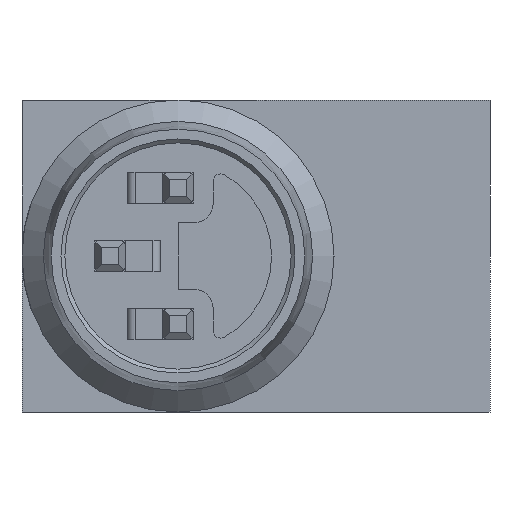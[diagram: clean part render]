
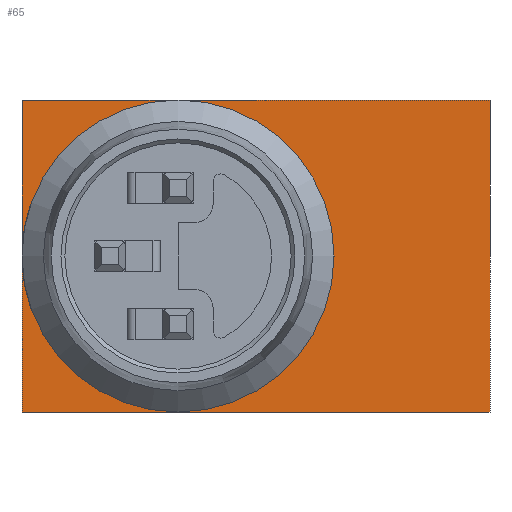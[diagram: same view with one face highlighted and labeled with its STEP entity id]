
A CAD part, left-side view. The second image highlights one B-rep face of the part: STEP entity #65.
In plain terms, the highlighted planar face has unit normal (-1, 0, 0).
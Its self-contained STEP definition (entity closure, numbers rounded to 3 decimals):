
#65 = ADVANCED_FACE( '', ( #145, #146 ), #147, .F. );
#145 = FACE_BOUND( '', #228, .T. );
#146 = FACE_OUTER_BOUND( '', #229, .T. );
#147 = PLANE( '', #230 );
#228 = EDGE_LOOP( '', ( #438 ) );
#229 = EDGE_LOOP( '', ( #439, #440, #441, #442 ) );
#230 = AXIS2_PLACEMENT_3D( '', #443, #444, #445 );
#438 = ORIENTED_EDGE( '', *, *, #751, .T. );
#439 = ORIENTED_EDGE( '', *, *, #703, .T. );
#440 = ORIENTED_EDGE( '', *, *, #752, .F. );
#441 = ORIENTED_EDGE( '', *, *, #691, .F. );
#442 = ORIENTED_EDGE( '', *, *, #753, .T. );
#443 = CARTESIAN_POINT( '', ( -20., 4., 4. ) );
#444 = DIRECTION( '', ( 1., 0., 0. ) );
#445 = DIRECTION( '', ( 0., 0., -1. ) );
#691 = EDGE_CURVE( '', #939, #940, #941, .T. );
#703 = EDGE_CURVE( '', #960, #961, #962, .T. );
#751 = EDGE_CURVE( '', #1044, #1044, #1045, .F. );
#752 = EDGE_CURVE( '', #940, #961, #1046, .T. );
#753 = EDGE_CURVE( '', #939, #960, #1047, .T. );
#939 = VERTEX_POINT( '', #1656 );
#940 = VERTEX_POINT( '', #1657 );
#941 = LINE( '', #1658, #1659 );
#960 = VERTEX_POINT( '', #1720 );
#961 = VERTEX_POINT( '', #1721 );
#962 = LINE( '', #1722, #1723 );
#1044 = VERTEX_POINT( '', #1836 );
#1045 = CIRCLE( '', #1837, 3.9 );
#1046 = LINE( '', #1838, #1839 );
#1047 = LINE( '', #1840, #1841 );
#1656 = CARTESIAN_POINT( '', ( -20., 4., 4. ) );
#1657 = CARTESIAN_POINT( '', ( -20., -8., 4. ) );
#1658 = CARTESIAN_POINT( '', ( -20., 4., 4. ) );
#1659 = VECTOR( '', #2083, 1000. );
#1720 = CARTESIAN_POINT( '', ( -20., 4., -4. ) );
#1721 = CARTESIAN_POINT( '', ( -20., -8., -4. ) );
#1722 = CARTESIAN_POINT( '', ( -20., 4., -4. ) );
#1723 = VECTOR( '', #2099, 1000. );
#1836 = CARTESIAN_POINT( '', ( -20., 0., -3.9 ) );
#1837 = AXIS2_PLACEMENT_3D( '', #2158, #2159, #2160 );
#1838 = CARTESIAN_POINT( '', ( -20., -8., 4. ) );
#1839 = VECTOR( '', #2161, 1000. );
#1840 = CARTESIAN_POINT( '', ( -20., 4., 4. ) );
#1841 = VECTOR( '', #2162, 1000. );
#2083 = DIRECTION( '', ( 0., -1., 0. ) );
#2099 = DIRECTION( '', ( 0., -1., 0. ) );
#2158 = CARTESIAN_POINT( '', ( -20., 0., 0. ) );
#2159 = DIRECTION( '', ( -1., 0., 0. ) );
#2160 = DIRECTION( '', ( 0., 0., -1. ) );
#2161 = DIRECTION( '', ( 0., 0., -1. ) );
#2162 = DIRECTION( '', ( 0., 0., -1. ) );
